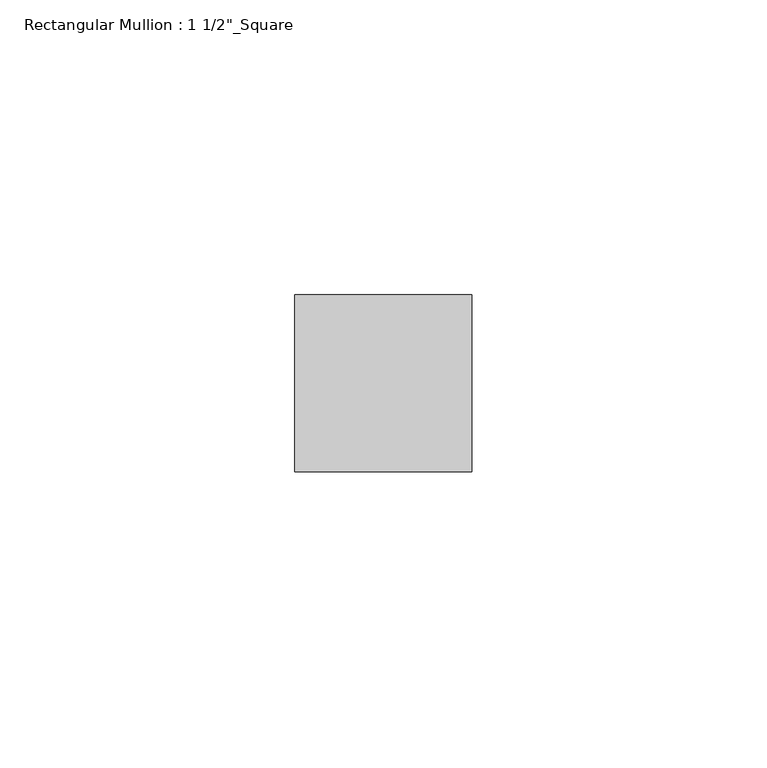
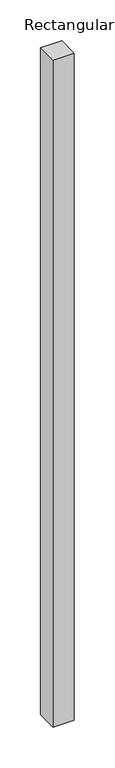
"""IFC4 building model written with IfcOpenShell, lengths in millimetres: member geometry."""

from ifc_helpers import new_model, si_unit, frame, origin, place, context, project, spatial, polyline, outline, extrude, source, transform, mapped, element, save


def member_74107c8f(model_context):
    return source(origin(), model_context, "Body", "SweptSolid", [
        extrude(outline(polyline([(0.0, 2.5), (0.0, -27.5), (-30.0, -27.5), (-30.0, 2.5), (0.0, 2.5)])), frame((0.0, 0.0, -997.1428574), z_axis=(0.0, 0.0, 1.0), x_axis=(1.0, 0.0, 0.0)), (0.0, 0.0, 1.0), 997.1428574),
    ])


if __name__ == "__main__":
    model = new_model("IFC4")
    model_context = context("Model", 3, world=origin())
    ifc_project = project(units=[si_unit("LENGTHUNIT", "METRE", prefix="MILLI")], contexts=[model_context])
    site = spatial("IfcSite", under=ifc_project)
    building = spatial("IfcBuilding", under=site)
    placement = place(None, origin())
    member_shape = member_74107c8f(model_context)
    element("IfcMember", 1, ObjectType="Rectangular Mullion : 1 1/2\"_Square", at=placement, inside=building, context=model_context, shape_type="MappedRepresentation", body=[
        mapped(member_shape, transform((0.0, 0.0, 0.0), x_axis=(1.0, 0.0, 0.0), y_axis=(0.0, 1.0, 0.0), z_axis=(0.0, 0.0, 1.0))),
    ])
    save(model, "model.ifc")
